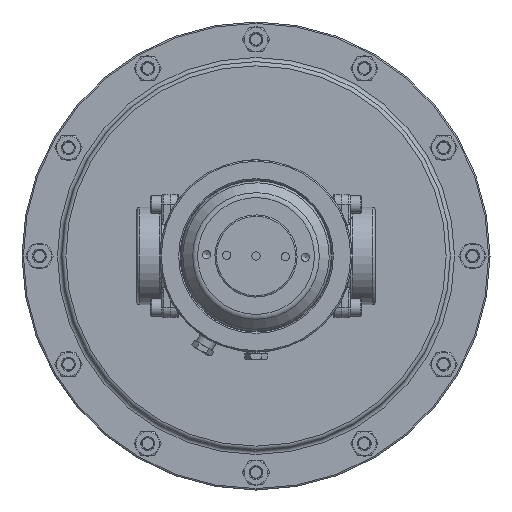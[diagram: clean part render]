
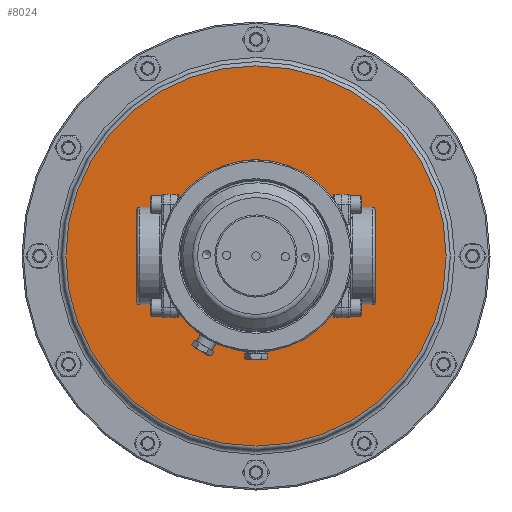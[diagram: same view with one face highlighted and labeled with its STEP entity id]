
A CAD part, front view. The second image highlights one B-rep face of the part: STEP entity #8024.
In plain terms, the highlighted planar face has unit normal (0, -1, 0).
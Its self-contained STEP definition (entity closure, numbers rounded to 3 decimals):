
#1709=FACE_BOUND('',#2453,.T.);
#1931=FACE_OUTER_BOUND('',#2452,.T.);
#2452=EDGE_LOOP('',(#5967));
#2453=EDGE_LOOP('',(#5968,#5969,#5970,#5971,#5972,#5973,#5974,#5975,#5976,
#5977,#5978,#5979));
#3026=CIRCLE('',#8867,52.5);
#3028=CIRCLE('',#8870,52.5);
#3029=CIRCLE('',#8872,52.5);
#3032=CIRCLE('',#8876,52.5);
#3033=CIRCLE('',#8878,52.5);
#3049=CIRCLE('',#8902,52.5);
#3057=CIRCLE('',#8915,5.45);
#3059=CIRCLE('',#8919,5.45);
#3100=CIRCLE('',#8968,136.5);
#3101=CIRCLE('',#8970,5.45);
#3102=CIRCLE('',#8971,5.45);
#3103=CIRCLE('',#8972,5.45);
#3104=CIRCLE('',#8973,5.45);
#3660=VERTEX_POINT('',#13175);
#3661=VERTEX_POINT('',#13180);
#3666=VERTEX_POINT('',#13194);
#3667=VERTEX_POINT('',#13199);
#3670=VERTEX_POINT('',#13209);
#3671=VERTEX_POINT('',#13214);
#3678=VERTEX_POINT('',#13232);
#3679=VERTEX_POINT('',#13237);
#3682=VERTEX_POINT('',#13247);
#3683=VERTEX_POINT('',#13252);
#3702=VERTEX_POINT('',#13445);
#3703=VERTEX_POINT('',#13450);
#3745=VERTEX_POINT('',#13565);
#4474=EDGE_CURVE('',#3661,#3660,#3026,.T.);
#4480=EDGE_CURVE('',#3667,#3666,#3028,.T.);
#4484=EDGE_CURVE('',#3671,#3670,#3029,.T.);
#4492=EDGE_CURVE('',#3679,#3678,#3032,.T.);
#4496=EDGE_CURVE('',#3683,#3682,#3033,.T.);
#4528=EDGE_CURVE('',#3703,#3702,#3049,.T.);
#4539=EDGE_CURVE('',#3667,#3678,#3057,.T.);
#4541=EDGE_CURVE('',#3661,#3666,#3059,.T.);
#4584=EDGE_CURVE('',#3745,#3745,#3100,.T.);
#4585=EDGE_CURVE('',#3679,#3702,#3101,.T.);
#4586=EDGE_CURVE('',#3671,#3660,#3102,.T.);
#4587=EDGE_CURVE('',#3683,#3670,#3103,.T.);
#4588=EDGE_CURVE('',#3703,#3682,#3104,.T.);
#5967=ORIENTED_EDGE('',*,*,#4584,.F.);
#5968=ORIENTED_EDGE('',*,*,#4528,.T.);
#5969=ORIENTED_EDGE('',*,*,#4585,.F.);
#5970=ORIENTED_EDGE('',*,*,#4492,.T.);
#5971=ORIENTED_EDGE('',*,*,#4539,.F.);
#5972=ORIENTED_EDGE('',*,*,#4480,.T.);
#5973=ORIENTED_EDGE('',*,*,#4541,.F.);
#5974=ORIENTED_EDGE('',*,*,#4474,.T.);
#5975=ORIENTED_EDGE('',*,*,#4586,.F.);
#5976=ORIENTED_EDGE('',*,*,#4484,.T.);
#5977=ORIENTED_EDGE('',*,*,#4587,.F.);
#5978=ORIENTED_EDGE('',*,*,#4496,.T.);
#5979=ORIENTED_EDGE('',*,*,#4588,.F.);
#7816=PLANE('',#8969);
#8024=ADVANCED_FACE('',(#1931,#1709),#7816,.T.);
#8867=AXIS2_PLACEMENT_3D('',#13181,#10258,#10259);
#8870=AXIS2_PLACEMENT_3D('',#13200,#10266,#10267);
#8872=AXIS2_PLACEMENT_3D('',#13215,#10271,#10272);
#8876=AXIS2_PLACEMENT_3D('',#13238,#10282,#10283);
#8878=AXIS2_PLACEMENT_3D('',#13253,#10287,#10288);
#8902=AXIS2_PLACEMENT_3D('',#13451,#10337,#10338);
#8915=AXIS2_PLACEMENT_3D('',#13475,#10365,#10366);
#8919=AXIS2_PLACEMENT_3D('',#13479,#10373,#10374);
#8968=AXIS2_PLACEMENT_3D('',#13567,#10473,#10474);
#8969=AXIS2_PLACEMENT_3D('',#13568,#10475,#10476);
#8970=AXIS2_PLACEMENT_3D('',#13569,#10477,#10478);
#8971=AXIS2_PLACEMENT_3D('',#13570,#10479,#10480);
#8972=AXIS2_PLACEMENT_3D('',#13571,#10481,#10482);
#8973=AXIS2_PLACEMENT_3D('',#13572,#10483,#10484);
#10258=DIRECTION('center_axis',(0.,1.,0.));
#10259=DIRECTION('ref_axis',(-1.,0.,0.));
#10266=DIRECTION('center_axis',(0.,1.,0.));
#10267=DIRECTION('ref_axis',(-1.,0.,0.));
#10271=DIRECTION('center_axis',(0.,1.,0.));
#10272=DIRECTION('ref_axis',(-1.,0.,0.));
#10282=DIRECTION('center_axis',(0.,1.,0.));
#10283=DIRECTION('ref_axis',(-1.,0.,0.));
#10287=DIRECTION('center_axis',(0.,1.,0.));
#10288=DIRECTION('ref_axis',(-1.,0.,0.));
#10337=DIRECTION('center_axis',(0.,1.,0.));
#10338=DIRECTION('ref_axis',(-1.,0.,0.));
#10365=DIRECTION('center_axis',(0.,-1.,0.));
#10366=DIRECTION('ref_axis',(-0.5,0.,0.866));
#10373=DIRECTION('center_axis',(0.,-1.,0.));
#10374=DIRECTION('ref_axis',(0.5,0.,0.866));
#10473=DIRECTION('center_axis',(0.,1.,0.));
#10474=DIRECTION('ref_axis',(1.,0.,0.));
#10475=DIRECTION('center_axis',(0.,-1.,0.));
#10476=DIRECTION('ref_axis',(0.,0.,
-1.));
#10477=DIRECTION('center_axis',(0.,-1.,0.));
#10478=DIRECTION('ref_axis',(-1.,0.,0.));
#10479=DIRECTION('center_axis',(0.,-1.,0.));
#10480=DIRECTION('ref_axis',(1.,0.,0.));
#10481=DIRECTION('center_axis',(0.,-1.,0.));
#10482=DIRECTION('ref_axis',(0.5,0.,-0.866));
#10483=DIRECTION('center_axis',(0.,-1.,0.));
#10484=DIRECTION('ref_axis',(-0.5,0.,-0.866));
#13175=CARTESIAN_POINT('',(-4.727,5.5,52.287));
#13180=CARTESIAN_POINT('',(-42.918,5.5,30.237));
#13181=CARTESIAN_POINT('Origin',(0.,5.5,
0.));
#13194=CARTESIAN_POINT('',(-47.645,5.5,22.05));
#13199=CARTESIAN_POINT('',(-47.645,5.5,-22.05));
#13200=CARTESIAN_POINT('Origin',(0.,5.5,
0.));
#13209=CARTESIAN_POINT('',(42.918,5.5,30.237));
#13214=CARTESIAN_POINT('',(4.727,5.5,52.287));
#13215=CARTESIAN_POINT('Origin',(0.,5.5,
0.));
#13232=CARTESIAN_POINT('',(-42.918,5.5,-30.237));
#13237=CARTESIAN_POINT('',(-4.727,5.5,-52.287));
#13238=CARTESIAN_POINT('Origin',(0.,5.5,
0.));
#13247=CARTESIAN_POINT('',(47.645,5.5,-22.05));
#13252=CARTESIAN_POINT('',(47.645,5.5,22.05));
#13253=CARTESIAN_POINT('Origin',(0.,5.5,
0.));
#13445=CARTESIAN_POINT('',(4.727,5.5,-52.287));
#13450=CARTESIAN_POINT('',(42.918,5.5,-30.237));
#13451=CARTESIAN_POINT('Origin',(0.,5.5,
0.));
#13475=CARTESIAN_POINT('Origin',(-47.631,5.5,-27.5));
#13479=CARTESIAN_POINT('Origin',(-47.631,5.5,27.5));
#13565=CARTESIAN_POINT('',(0.,5.5,-136.5));
#13567=CARTESIAN_POINT('Origin',(0.,5.5,
0.));
#13568=CARTESIAN_POINT('Origin',(-93.9,5.5,0.));
#13569=CARTESIAN_POINT('Origin',(0.,5.5,
-55.));
#13570=CARTESIAN_POINT('Origin',(0.,5.5,
55.));
#13571=CARTESIAN_POINT('Origin',(47.631,5.5,27.5));
#13572=CARTESIAN_POINT('Origin',(47.631,5.5,-27.5));
